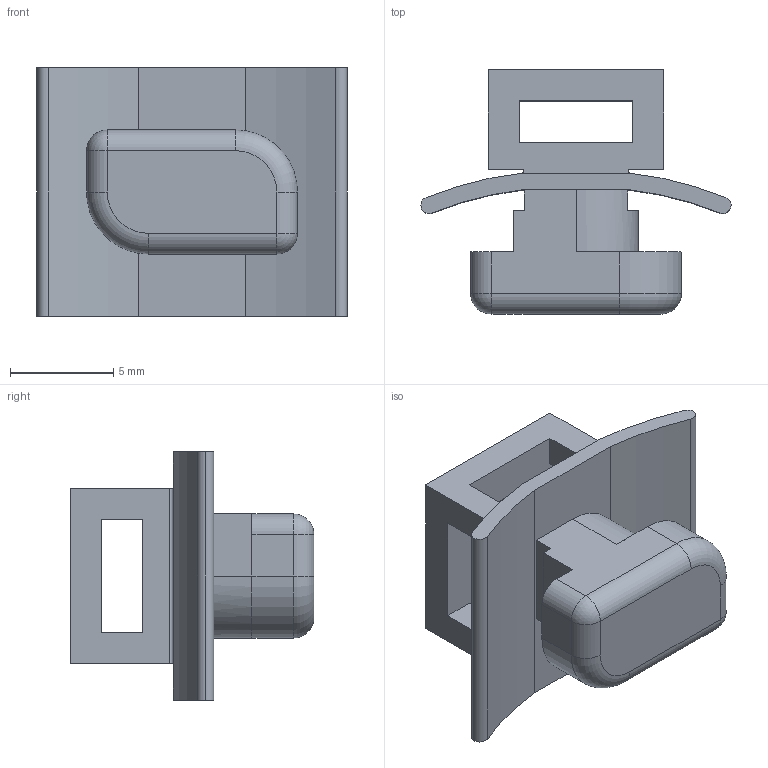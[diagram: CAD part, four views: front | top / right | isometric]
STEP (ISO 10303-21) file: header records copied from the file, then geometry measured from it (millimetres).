
FILE_DESCRIPTION (( 'STEP AP214' ), '1' );
FILE_NAME ('J3CC.step', '2017-05-24T07:38:46', ( 'admin' ), ( '' ), 'SwSTEP 2.0', 'SolidWorks 2014', '' );
FILE_SCHEMA (( 'AUTOMOTIVE_DESIGN' ));
Length unit declared in the file: millimetre
Products named in the file (1): J3CC
Bounding box: 15 x 11.8 x 12 mm (x, y, z)
Volume: 631.5 mm3; surface area: 985.7 mm2
Topology: 2 solids, 2 shells, 60 faces, 162 edges, 102 vertices
Faces by surface type: plane 36, cylinder 20, sphere 2, torus 2
Entity records: 1911 total; most frequent: DIRECTION 326, CARTESIAN_POINT 323, ORIENTED_EDGE 320, EDGE_CURVE 160, LINE 116, VECTOR 116, AXIS2_PLACEMENT_3D 105, VERTEX_POINT 102
